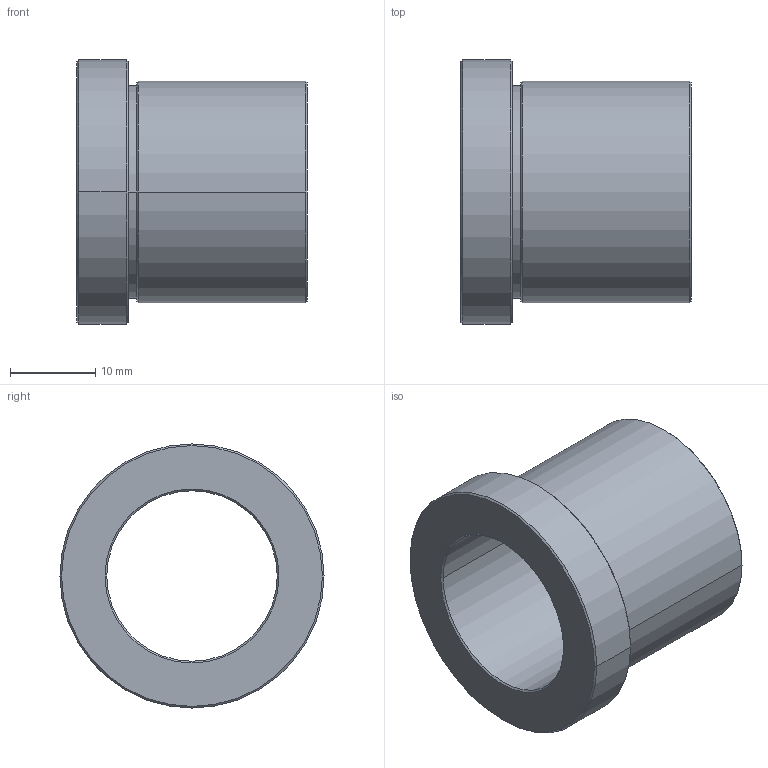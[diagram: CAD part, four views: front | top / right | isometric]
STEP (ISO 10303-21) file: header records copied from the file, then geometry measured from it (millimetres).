
FILE_DESCRIPTION (( 'STEP AP214' ), '1' );
FILE_NAME ('R03_027x20.STEP', '2015-03-05T14:47:18', ( 'TGL' ), ( '' ), 'SwSTEP 2.0', 'SolidWorks 2011', '' );
FILE_SCHEMA (( 'AUTOMOTIVE_DESIGN' ));
Length unit declared in the file: millimetre
Products named in the file (1): R03_027x20
Bounding box: 27 x 31 x 31 mm (x, y, z)
Volume: 7030.2 mm3; surface area: 4831.2 mm2
Topology: 1 solids, 1 shells, 23 faces, 46 edges, 26 vertices
Faces by surface type: cone 10, cylinder 8, plane 3, torus 2
Entity records: 700 total; most frequent: DIRECTION 122, CARTESIAN_POINT 96, ORIENTED_EDGE 92, AXIS2_PLACEMENT_3D 52, EDGE_CURVE 46, CIRCLE 28, EDGE_LOOP 26, VERTEX_POINT 26
